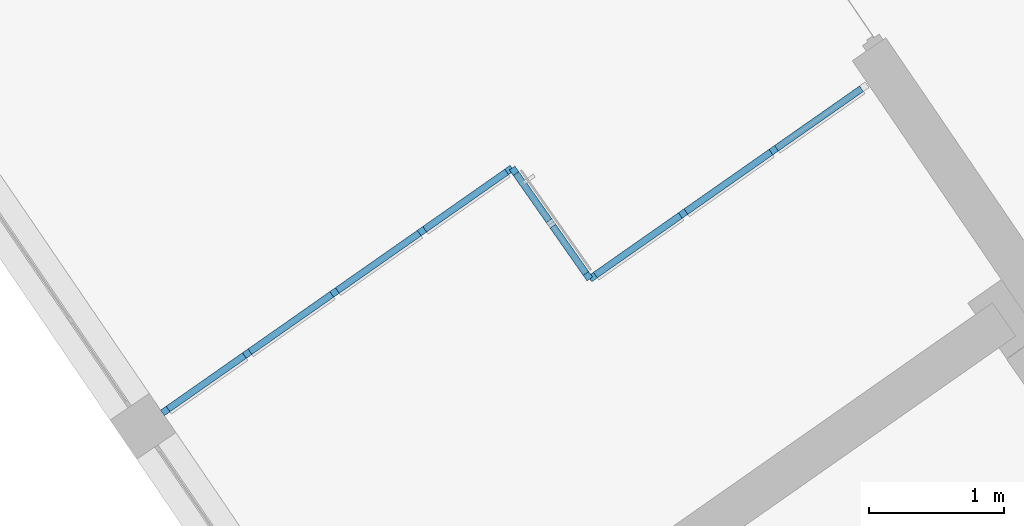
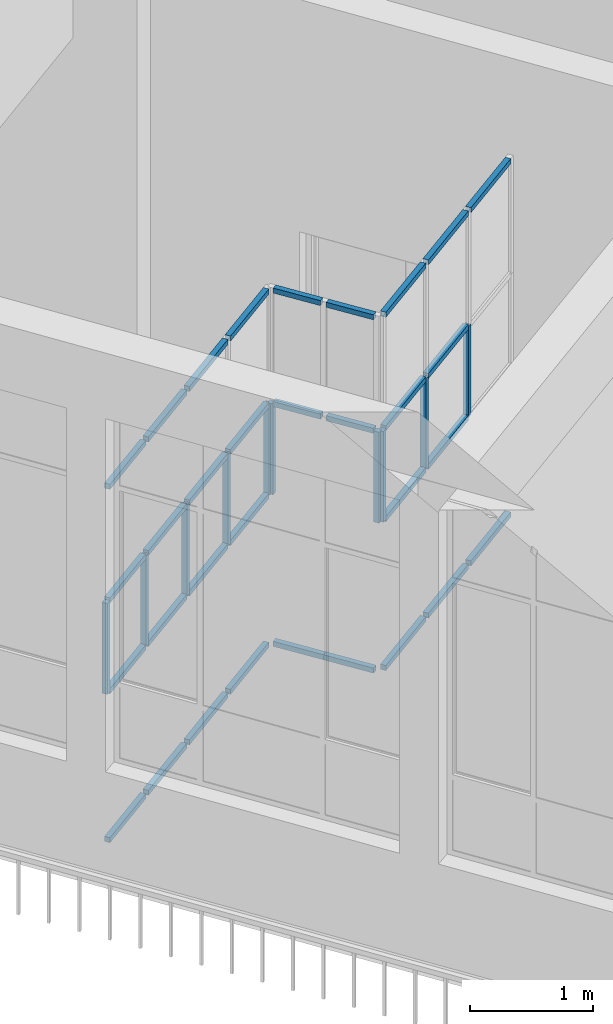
# One storey, part 39 of 157: 42 members, 3 elements without a shape of their own.
"""IFC2X3 building model written with IfcOpenShell, lengths in millimetres."""

from ifc_helpers import new_model, entity, si_unit, converted_unit, derived_unit, direction, frame, origin, origin_2d_with_axis, place, context, subcontext, project, spatial, rectangle, extrude, source, transform, mapped, material, type_object, type_shapes, element, aggregate, save


model = new_model("IFC2X3")

# Units and contexts
model_context = context("Model", 3, precision=0.01, world=origin(), true_north=direction((6.123031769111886e-17, 1.0)))
body_context = subcontext(model_context, "Body", "Model", "MODEL_VIEW")
ifc_project = project(units=[si_unit("LENGTHUNIT", "METRE", prefix="MILLI"), si_unit("AREAUNIT", "SQUARE_METRE"), si_unit("VOLUMEUNIT", "CUBIC_METRE"), converted_unit("PLANEANGLEUNIT", "DEGREE", entity("IfcRatioMeasure", 0.017453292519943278), si_unit("PLANEANGLEUNIT", "RADIAN"), dimensions=[0, 0, 0, 0, 0, 0, 0]), si_unit("MASSUNIT", "GRAM", prefix="KILO"), derived_unit("MASSDENSITYUNIT", [(si_unit("MASSUNIT", "GRAM", prefix="KILO"), 1), (si_unit("LENGTHUNIT", "METRE"), -3)]), derived_unit("MOMENTOFINERTIAUNIT", [(si_unit("LENGTHUNIT", "METRE"), 4)]), si_unit("TIMEUNIT", "SECOND"), si_unit("FREQUENCYUNIT", "HERTZ"), si_unit("THERMODYNAMICTEMPERATUREUNIT", "DEGREE_CELSIUS"), derived_unit("THERMALTRANSMITTANCEUNIT", [(si_unit("MASSUNIT", "GRAM", prefix="KILO"), 1), (si_unit("THERMODYNAMICTEMPERATUREUNIT", "KELVIN"), -1), (si_unit("TIMEUNIT", "SECOND"), -3)]), derived_unit("THERMALCONDUCTANCEUNIT", [(si_unit("MASSUNIT", "GRAM", prefix="KILO"), 1), (si_unit("LENGTHUNIT", "METRE"), 1), (si_unit("THERMODYNAMICTEMPERATUREUNIT", "KELVIN"), -1), (si_unit("TIMEUNIT", "SECOND"), -3)]), derived_unit("VOLUMETRICFLOWRATEUNIT", [(si_unit("LENGTHUNIT", "METRE"), 3), (si_unit("TIMEUNIT", "SECOND"), -1)]), derived_unit("MASSFLOWRATEUNIT", [(si_unit("MASSUNIT", "GRAM", prefix="KILO"), 1), (si_unit("TIMEUNIT", "SECOND"), -1)]), derived_unit("ROTATIONALFREQUENCYUNIT", [(si_unit("TIMEUNIT", "SECOND"), -1)]), si_unit("ELECTRICCURRENTUNIT", "AMPERE"), si_unit("ELECTRICVOLTAGEUNIT", "VOLT"), si_unit("POWERUNIT", "WATT"), converted_unit("FORCEUNIT", "KIP", entity("IfcRatioMeasure", 2.088543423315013e-05), si_unit("FORCEUNIT", "NEWTON"), dimensions=[1, 1, -2, 0, 0, 0, 0]), si_unit("ILLUMINANCEUNIT", "LUX"), si_unit("LUMINOUSFLUXUNIT", "LUMEN"), si_unit("LUMINOUSINTENSITYUNIT", "CANDELA"), derived_unit("USERDEFINED", [(si_unit("MASSUNIT", "GRAM", prefix="KILO"), -1), (si_unit("LENGTHUNIT", "METRE"), -2), (si_unit("TIMEUNIT", "SECOND"), 3), (si_unit("LUMINOUSFLUXUNIT", "LUMEN"), 1)]), derived_unit("USERDEFINED", [(si_unit("MASSUNIT", "GRAM", prefix="KILO"), 1), (si_unit("LENGTHUNIT", "METRE"), 3), (si_unit("TIMEUNIT", "SECOND"), -3), (si_unit("ELECTRICCURRENTUNIT", "AMPERE"), -2)]), derived_unit("USERDEFINED", [(si_unit("LENGTHUNIT", "METRE"), 2), (si_unit("TIMEUNIT", "SECOND"), -2)]), derived_unit("SOUNDPOWERUNIT", [(si_unit("MASSUNIT", "GRAM", prefix="KILO"), 1), (si_unit("LENGTHUNIT", "METRE"), 2), (si_unit("TIMEUNIT", "SECOND"), -3)]), derived_unit("SOUNDPRESSUREUNIT", [(si_unit("MASSUNIT", "GRAM", prefix="KILO"), 1), (si_unit("LENGTHUNIT", "METRE"), -1), (si_unit("TIMEUNIT", "SECOND"), -2)]), derived_unit("LINEARVELOCITYUNIT", [(si_unit("LENGTHUNIT", "METRE"), 1), (si_unit("TIMEUNIT", "SECOND"), -1)]), si_unit("PRESSUREUNIT", "PASCAL"), derived_unit("USERDEFINED", [(si_unit("LENGTHUNIT", "METRE"), -2), (si_unit("MASSUNIT", "GRAM", prefix="KILO"), 1), (si_unit("TIMEUNIT", "SECOND"), -2)]), derived_unit("LINEARFORCEUNIT", [(si_unit("MASSUNIT", "GRAM", prefix="KILO"), 1), (si_unit("LENGTHUNIT", "METRE"), 1), (si_unit("TIMEUNIT", "SECOND"), -2), (si_unit("LENGTHUNIT", "METRE"), -1)]), derived_unit("PLANARFORCEUNIT", [(si_unit("MASSUNIT", "GRAM", prefix="KILO"), 1), (si_unit("LENGTHUNIT", "METRE"), 1), (si_unit("TIMEUNIT", "SECOND"), -2), (si_unit("LENGTHUNIT", "METRE"), -2)]), derived_unit("SPECIFICHEATCAPACITYUNIT", [(si_unit("LENGTHUNIT", "METRE"), 2), (si_unit("TIMEUNIT", "SECOND"), -2), (si_unit("THERMODYNAMICTEMPERATUREUNIT", "KELVIN"), -1)]), derived_unit("VAPORPERMEABILITYUNIT", [(si_unit("TIMEUNIT", "SECOND"), 1), (si_unit("LENGTHUNIT", "METRE"), -1)]), derived_unit("DYNAMICVISCOSITYUNIT", [(si_unit("MASSUNIT", "GRAM", prefix="KILO"), 1), (si_unit("LENGTHUNIT", "METRE"), -1), (si_unit("TIMEUNIT", "SECOND"), -1)]), derived_unit("THERMALEXPANSIONCOEFFICIENTUNIT", [(si_unit("THERMODYNAMICTEMPERATUREUNIT", "KELVIN"), -1)])], contexts=[model_context])

# Site, building, storey
site_placement = place(None, frame((0.0, 0.0, 0.0), z_axis=(0.0, 0.0, 1.0), x_axis=(0.8191520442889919, 0.5735764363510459, 0.0)))
site = spatial("IfcSite", under=ifc_project, at=site_placement, Name="Default", CompositionType="ELEMENT")
building_placement = place(site_placement, origin())
building = spatial("IfcBuilding", under=site, at=building_placement, CompositionType="ELEMENT")
storey_placement = place(building_placement, origin())
storey = spatial("IfcBuildingStorey", under=building, at=storey_placement, Name="1.EG +0.00", CompositionType="ELEMENT", Elevation=-4.331468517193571e-12)

# Curtain wall, members
curtain_wall_type = type_object("IfcCurtainWallType", Name="Curtain Wall:Curtain_Wall_CJC_Int5", PredefinedType="NOTDEFINED")
curtain_wall_1_placement = place(storey_placement, origin())
curtain_wall_1 = element("IfcCurtainWall", 1, at=curtain_wall_1_placement, inside=storey, type_object=curtain_wall_type, Name="Curtain Wall:Curtain_Wall_CJC_Int5", ObjectType="Curtain Wall:Curtain_Wall_CJC_Int5")
ifc_material = material(Name="Aluminium")
member_type_1 = type_object("IfcMemberType", Name="Rectangular Mullion:5x5", PredefinedType="MULLION", material=ifc_material)
shared_shape_1 = source(origin(), body_context, "Body", "SweptSolid", [
    extrude(rectangle(XDim=50.000000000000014, YDim=50.0, at=origin_2d_with_axis()), frame((-25.0, 0.0, -766.6666667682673), z_axis=(0.0, 0.0, 1.0), x_axis=(0.0, -1.0, 0.0)), (0.0, 0.0, 1.0), 766.6666667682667),
])
type_shapes(member_type_1, [shared_shape_1])
member_1_placement = place(curtain_wall_1_placement, frame((-218968.91835994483, 159994.0786543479, 3550.0), z_axis=(-1.0, 0.0, 0.0), x_axis=(0.0, 0.0, 1.0)))
member_1 = element("IfcMember", 2, at=member_1_placement, type_object=member_type_1, material=ifc_material, Name="Rectangular Mullion:5x5", ObjectType="Rectangular Mullion:5x5", context=body_context, shape_type="MappedRepresentation", body=[
    mapped(shared_shape_1, transform((0.0, 0.0, 0.0), scale=1.0)),
])
member_2_placement = place(curtain_wall_1_placement, frame((-217335.58502671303, 159994.0786543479, 3550.0), z_axis=(-1.0, 0.0, 0.0), x_axis=(0.0, 0.0, 1.0)))
member_2 = element("IfcMember", 3, at=member_2_placement, type_object=member_type_1, material=ifc_material, Name="Rectangular Mullion:5x5", ObjectType="Rectangular Mullion:5x5", context=body_context, shape_type="MappedRepresentation", body=[
    mapped(shared_shape_1, transform((0.0, 0.0, 0.0), scale=1.0)),
])
member_3_placement = place(curtain_wall_1_placement, frame((-218152.25169317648, 159994.0786543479, 3550.0), z_axis=(-1.0, 0.0, 0.0), x_axis=(0.0, 0.0, 1.0)))
member_3 = element("IfcMember", 4, at=member_3_placement, type_object=member_type_1, material=ifc_material, Name="Rectangular Mullion:5x5", ObjectType="Rectangular Mullion:5x5", context=body_context, shape_type="MappedRepresentation", body=[
    mapped(shared_shape_1, transform((0.0, 0.0, 0.0), scale=1.0)),
])
member_type_2 = type_object("IfcMemberType", Name="Rectangular Mullion:5x5", PredefinedType="MULLION", material=ifc_material)
shared_shape_2 = source(origin(), body_context, "Body", "SweptSolid", [
    extrude(rectangle(XDim=50.000000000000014, YDim=50.0, at=origin_2d_with_axis()), frame((-25.0, 0.0, -766.6666667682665), z_axis=(0.0, 0.0, 1.0), x_axis=(0.0, -1.0, 0.0)), (0.0, 0.0, 1.0), 766.666666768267),
])
type_shapes(member_type_2, [shared_shape_2])
member_4_placement = place(curtain_wall_1_placement, frame((-216568.91835994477, 159994.0786543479, 0.0), z_axis=(1.0, 0.0, 0.0), x_axis=(0.0, 0.0, -1.0)))
member_4 = element("IfcMember", 5, at=member_4_placement, type_object=member_type_2, material=ifc_material, Name="Rectangular Mullion:5x5", ObjectType="Rectangular Mullion:5x5", context=body_context, shape_type="MappedRepresentation", body=[
    mapped(shared_shape_2, transform((0.0, 0.0, 0.0), scale=1.0)),
])
member_5_placement = place(curtain_wall_1_placement, frame((-217385.58502671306, 159994.0786543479, 0.0), z_axis=(1.0, 0.0, 0.0), x_axis=(0.0, 0.0, -1.0)))
member_5 = element("IfcMember", 6, at=member_5_placement, type_object=member_type_2, material=ifc_material, Name="Rectangular Mullion:5x5", ObjectType="Rectangular Mullion:5x5", context=body_context, shape_type="MappedRepresentation", body=[
    mapped(shared_shape_2, transform((0.0, 0.0, 0.0), scale=1.0)),
])
member_6_placement = place(curtain_wall_1_placement, frame((-218202.2516931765, 159994.0786543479, 0.0), z_axis=(1.0, 0.0, 0.0), x_axis=(0.0, 0.0, -1.0)))
member_6 = element("IfcMember", 7, at=member_6_placement, type_object=member_type_2, material=ifc_material, Name="Rectangular Mullion:5x5", ObjectType="Rectangular Mullion:5x5", context=body_context, shape_type="MappedRepresentation", body=[
    mapped(shared_shape_2, transform((0.0, 0.0, 0.0), scale=1.0)),
])
member_type_3 = type_object("IfcMemberType", Name="Rectangular Mullion:5x5", PredefinedType="MULLION", material=ifc_material)
shared_shape_3 = source(origin(), body_context, "Body", "SweptSolid", [
    extrude(rectangle(XDim=50.000000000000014, YDim=50.0, at=origin_2d_with_axis()), frame((-25.0, 0.0, -900.0), z_axis=(0.0, 0.0, 1.0), x_axis=(0.0, -1.0, 0.0)), (0.0, 0.0, 1.0), 900.0000000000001),
])
type_shapes(member_type_3, [shared_shape_3])
member_7_placement = place(curtain_wall_1_placement, frame((-219018.91835994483, 159994.0786543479, 1500.0), z_axis=(0.0, 0.0, -1.0), x_axis=(-1.0, 0.0, 0.0)))
member_7 = element("IfcMember", 8, at=member_7_placement, type_object=member_type_3, material=ifc_material, Name="Rectangular Mullion:5x5", ObjectType="Rectangular Mullion:5x5", context=body_context, shape_type="MappedRepresentation", body=[
    mapped(shared_shape_3, transform((0.0, 0.0, 0.0), scale=1.0)),
])

# Curtain wall, member
curtain_wall_2_placement = place(storey_placement, origin())
curtain_wall_2 = element("IfcCurtainWall", 9, at=curtain_wall_2_placement, inside=storey, type_object=curtain_wall_type, Name="Curtain Wall:Curtain_Wall_CJC_Int5", ObjectType="Curtain Wall:Curtain_Wall_CJC_Int5")
member_8_placement = place(curtain_wall_2_placement, frame((-222171.90199927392, 160994.07865434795, 1500.0), z_axis=(0.0, 0.0, -1.0), x_axis=(-1.0, 0.0, 0.0)))
member_8 = element("IfcMember", 10, at=member_8_placement, type_object=member_type_3, material=ifc_material, Name="Rectangular Mullion:5x5", ObjectType="Rectangular Mullion:5x5", context=body_context, shape_type="MappedRepresentation", body=[
    mapped(shared_shape_3, transform((0.0, 0.0, 0.0), scale=1.0)),
])

# Member
member_type_4 = type_object("IfcMemberType", Name="Rectangular Mullion:5x5", PredefinedType="MULLION", material=ifc_material)
shared_shape_4 = source(origin(), body_context, "Body", "SweptSolid", [
    extrude(rectangle(XDim=50.0, YDim=50.0, at=origin_2d_with_axis()), frame((0.0, 0.0, -766.6666667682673), z_axis=(0.0, 0.0, 1.0), x_axis=(0.0, -1.0, 0.0)), (0.0, 0.0, 1.0), 766.666666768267),
])
type_shapes(member_type_4, [shared_shape_4])
member_9_placement = place(curtain_wall_1_placement, frame((-218152.25169317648, 159994.0786543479, 1500.0), z_axis=(-1.0, 0.0, 0.0), x_axis=(0.0, 0.0, 1.0)))
member_9 = element("IfcMember", 11, at=member_9_placement, type_object=member_type_4, material=ifc_material, Name="Rectangular Mullion:5x5", ObjectType="Rectangular Mullion:5x5", context=body_context, shape_type="MappedRepresentation", body=[
    mapped(shared_shape_4, transform((0.0, 0.0, 0.0), scale=1.0)),
])

member_10_placement = place(curtain_wall_1_placement, frame((-218968.91835994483, 159994.0786543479, 1500.0), z_axis=(-1.0, 0.0, 0.0), x_axis=(0.0, 0.0, 1.0)))
member_10 = element("IfcMember", 12, at=member_10_placement, type_object=member_type_4, material=ifc_material, Name="Rectangular Mullion:5x5", ObjectType="Rectangular Mullion:5x5", context=body_context, shape_type="MappedRepresentation", body=[
    mapped(shared_shape_4, transform((0.0, 0.0, 0.0), scale=1.0)),
])

member_11_placement = place(curtain_wall_1_placement, frame((-218152.25169317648, 159994.0786543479, 2400.0), z_axis=(-1.0, 0.0, 0.0), x_axis=(0.0, 0.0, 1.0)))
member_11 = element("IfcMember", 13, at=member_11_placement, type_object=member_type_4, material=ifc_material, Name="Rectangular Mullion:5x5", ObjectType="Rectangular Mullion:5x5", context=body_context, shape_type="MappedRepresentation", body=[
    mapped(shared_shape_4, transform((0.0, 0.0, 0.0), scale=1.0)),
])

member_12_placement = place(curtain_wall_1_placement, frame((-218968.91835994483, 159994.0786543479, 2400.0), z_axis=(-1.0, 0.0, 0.0), x_axis=(0.0, 0.0, 1.0)))
member_12 = element("IfcMember", 14, at=member_12_placement, type_object=member_type_4, material=ifc_material, Name="Rectangular Mullion:5x5", ObjectType="Rectangular Mullion:5x5", context=body_context, shape_type="MappedRepresentation", body=[
    mapped(shared_shape_4, transform((0.0, 0.0, 0.0), scale=1.0)),
])

member_type_5 = type_object("IfcMemberType", Name="Rectangular Mullion:5x5", PredefinedType="MULLION", material=ifc_material)
shared_shape_5 = source(origin(), body_context, "Body", "SweptSolid", [
    extrude(rectangle(XDim=50.0, YDim=50.0, at=origin_2d_with_axis()), frame((0.0, 0.0, -900.0), z_axis=(0.0, 0.0, 1.0), x_axis=(0.0, -1.0, 0.0)), (0.0, 0.0, 1.0), 900.0000000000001),
])
type_shapes(member_type_5, [shared_shape_5])
member_13_placement = place(curtain_wall_1_placement, frame((-217360.58502671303, 159994.0786543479, 1500.0), z_axis=(0.0, 0.0, -1.0), x_axis=(-1.0, 0.0, 0.0)))
member_13 = element("IfcMember", 15, at=member_13_placement, type_object=member_type_5, material=ifc_material, Name="Rectangular Mullion:5x5", ObjectType="Rectangular Mullion:5x5", context=body_context, shape_type="MappedRepresentation", body=[
    mapped(shared_shape_5, transform((0.0, 0.0, 0.0), scale=1.0)),
])

member_14_placement = place(curtain_wall_1_placement, frame((-218177.25169317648, 159994.0786543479, 1500.0), z_axis=(0.0, 0.0, -1.0), x_axis=(-1.0, 0.0, 0.0)))
member_14 = element("IfcMember", 16, at=member_14_placement, type_object=member_type_5, material=ifc_material, Name="Rectangular Mullion:5x5", ObjectType="Rectangular Mullion:5x5", context=body_context, shape_type="MappedRepresentation", body=[
    mapped(shared_shape_5, transform((0.0, 0.0, 0.0), scale=1.0)),
])

aggregate(curtain_wall_1, [member_1, member_2, member_3, member_4, member_5, member_6, member_7, member_9, member_10, member_13, member_14, member_11, member_12])

member_15_placement = place(curtain_wall_2_placement, frame((-219832.1642699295, 160994.07865434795, 1500.0), z_axis=(0.0, 0.0, -1.0), x_axis=(-1.0, 0.0, 0.0)))
member_15 = element("IfcMember", 17, at=member_15_placement, type_object=member_type_5, material=ifc_material, Name="Rectangular Mullion:5x5", ObjectType="Rectangular Mullion:5x5", context=body_context, shape_type="MappedRepresentation", body=[
    mapped(shared_shape_5, transform((0.0, 0.0, 0.0), scale=1.0)),
])

member_16_placement = place(curtain_wall_2_placement, frame((-220620.41017960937, 160994.07865434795, 1500.0), z_axis=(0.0, 0.0, -1.0), x_axis=(-1.0, 0.0, 0.0)))
member_16 = element("IfcMember", 18, at=member_16_placement, type_object=member_type_5, material=ifc_material, Name="Rectangular Mullion:5x5", ObjectType="Rectangular Mullion:5x5", context=body_context, shape_type="MappedRepresentation", body=[
    mapped(shared_shape_5, transform((0.0, 0.0, 0.0), scale=1.0)),
])

member_17_placement = place(curtain_wall_2_placement, frame((-221408.65608928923, 160994.07865434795, 1500.0), z_axis=(0.0, 0.0, -1.0), x_axis=(-1.0, 0.0, 0.0)))
member_17 = element("IfcMember", 19, at=member_17_placement, type_object=member_type_5, material=ifc_material, Name="Rectangular Mullion:5x5", ObjectType="Rectangular Mullion:5x5", context=body_context, shape_type="MappedRepresentation", body=[
    mapped(shared_shape_5, transform((0.0, 0.0, 0.0), scale=1.0)),
])

member_type_6 = type_object("IfcMemberType", Name="Rectangular Mullion:5x5", PredefinedType="MULLION", material=ifc_material)
shared_shape_6 = source(origin(), body_context, "Body", "SweptSolid", [
    extrude(rectangle(XDim=50.000000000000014, YDim=50.0, at=origin_2d_with_axis()), frame((-25.0, 0.0, -900.0), z_axis=(0.0, 0.0, 1.0), x_axis=(0.0, -1.0, 0.0)), (0.0, 0.0, 1.0), 899.9999999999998),
])
type_shapes(member_type_6, [shared_shape_6])
member_18_placement = place(curtain_wall_2_placement, frame((-219018.91835994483, 160994.07865434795, 2400.0)))
member_18 = element("IfcMember", 20, at=member_18_placement, type_object=member_type_6, material=ifc_material, Name="Rectangular Mullion:5x5", ObjectType="Rectangular Mullion:5x5", context=body_context, shape_type="MappedRepresentation", body=[
    mapped(shared_shape_6, transform((0.0, 0.0, 0.0), scale=1.0)),
])

# Curtain wall, members
curtain_wall_3_placement = place(storey_placement, origin())
curtain_wall_3 = element("IfcCurtainWall", 21, at=curtain_wall_3_placement, inside=storey, type_object=curtain_wall_type, Name="Curtain Wall:Curtain_Wall_CJC_Int5", ObjectType="Curtain Wall:Curtain_Wall_CJC_Int5")
member_type_7 = type_object("IfcMemberType", Name="Rectangular Mullion:5x5", PredefinedType="MULLION", material=ifc_material)
shared_shape_7 = source(origin(), body_context, "Body", "SweptSolid", [
    extrude(rectangle(XDim=50.000000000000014, YDim=50.0, at=origin_2d_with_axis()), frame((-25.0, 0.0, -425.0), z_axis=(0.0, 0.0, 1.0), x_axis=(0.0, -1.0, 0.0)), (0.0, 0.0, 1.0), 425.0000000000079),
])
type_shapes(member_type_7, [shared_shape_7])
member_19_placement = place(curtain_wall_3_placement, frame((-219018.91835994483, 160944.07865434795, 3550.0), z_axis=(0.0, 1.0, 0.0), x_axis=(0.0, 0.0, 1.0)))
member_19 = element("IfcMember", 22, at=member_19_placement, type_object=member_type_7, material=ifc_material, Name="Rectangular Mullion:5x5", ObjectType="Rectangular Mullion:5x5", context=body_context, shape_type="MappedRepresentation", body=[
    mapped(shared_shape_7, transform((0.0, 0.0, 0.0), scale=1.0)),
])
member_20_placement = place(curtain_wall_3_placement, frame((-219018.91835994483, 160469.0786543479, 3550.0), z_axis=(0.0, 1.0, 0.0), x_axis=(0.0, 0.0, 1.0)))
member_20 = element("IfcMember", 23, at=member_20_placement, type_object=member_type_7, material=ifc_material, Name="Rectangular Mullion:5x5", ObjectType="Rectangular Mullion:5x5", context=body_context, shape_type="MappedRepresentation", body=[
    mapped(shared_shape_7, transform((0.0, 0.0, 0.0), scale=1.0)),
])
member_type_8 = type_object("IfcMemberType", Name="Rectangular Mullion:5x5", PredefinedType="MULLION", material=ifc_material)
shared_shape_8 = source(origin(), body_context, "Body", "SweptSolid", [
    extrude(rectangle(XDim=50.000000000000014, YDim=50.0, at=origin_2d_with_axis()), frame((-25.0, 0.0, -450.0), z_axis=(0.0, 0.0, 1.0), x_axis=(0.0, -1.0, 0.0)), (0.0, 0.0, 1.0), 449.9999999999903),
])
type_shapes(member_type_8, [shared_shape_8])
member_21_placement = place(curtain_wall_3_placement, frame((-219018.91835994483, 160044.0786543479, 0.0), z_axis=(0.0, -1.0, 0.0), x_axis=(0.0, 0.0, -1.0)))
member_21 = element("IfcMember", 24, at=member_21_placement, type_object=member_type_8, material=ifc_material, Name="Rectangular Mullion:5x5", ObjectType="Rectangular Mullion:5x5", context=body_context, shape_type="MappedRepresentation", body=[
    mapped(shared_shape_8, transform((0.0, 0.0, 0.0), scale=1.0)),
])
member_type_9 = type_object("IfcMemberType", Name="Rectangular Mullion:5x5", PredefinedType="MULLION", material=ifc_material)
shared_shape_9 = source(origin(), body_context, "Body", "SweptSolid", [
    extrude(rectangle(XDim=50.000000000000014, YDim=50.0, at=origin_2d_with_axis()), frame((-25.0, 0.0, -450.0), z_axis=(0.0, 0.0, 1.0), x_axis=(0.0, -1.0, 0.0)), (0.0, 0.0, 1.0), 450.0000000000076),
])
type_shapes(member_type_9, [shared_shape_9])
member_22_placement = place(curtain_wall_3_placement, frame((-219018.91835994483, 160494.0786543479, 0.0), z_axis=(0.0, -1.0, 0.0), x_axis=(0.0, 0.0, -1.0)))
member_22 = element("IfcMember", 25, at=member_22_placement, type_object=member_type_9, material=ifc_material, Name="Rectangular Mullion:5x5", ObjectType="Rectangular Mullion:5x5", context=body_context, shape_type="MappedRepresentation", body=[
    mapped(shared_shape_9, transform((0.0, 0.0, 0.0), scale=1.0)),
])
member_type_10 = type_object("IfcMemberType", Name="Rectangular Mullion:5x5", PredefinedType="MULLION", material=ifc_material)
shared_shape_10 = source(origin(), body_context, "Body", "SweptSolid", [
    extrude(rectangle(XDim=50.000000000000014, YDim=50.0, at=origin_2d_with_axis()), frame((-25.0, 0.0, -900.0), z_axis=(0.0, 0.0, 1.0), x_axis=(0.0, -1.0, 0.0)), (0.0, 0.0, 1.0), 900.0000000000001),
])
type_shapes(member_type_10, [shared_shape_10])
member_23_placement = place(curtain_wall_3_placement, frame((-219018.91835994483, 160994.07865434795, 1500.0), z_axis=(0.0, 0.0, -1.0), x_axis=(0.0, 1.0, 0.0)))
member_23 = element("IfcMember", 26, at=member_23_placement, type_object=member_type_10, material=ifc_material, Name="Rectangular Mullion:5x5", ObjectType="Rectangular Mullion:5x5", context=body_context, shape_type="MappedRepresentation", body=[
    mapped(shared_shape_10, transform((0.0, 0.0, 0.0), scale=1.0)),
])
member_type_11 = type_object("IfcMemberType", Name="Rectangular Mullion:5x5", PredefinedType="MULLION", material=ifc_material)
shared_shape_11 = source(origin(), body_context, "Body", "SweptSolid", [
    extrude(rectangle(XDim=50.0, YDim=50.0, at=origin_2d_with_axis()), frame((-25.0, 0.0, -900.0), z_axis=(0.0, 0.0, 1.0), x_axis=(0.0, -1.0, 0.0)), (0.0, 0.0, 1.0), 899.9999999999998),
])
type_shapes(member_type_11, [shared_shape_11])
member_24_placement = place(curtain_wall_3_placement, frame((-219018.91835994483, 159994.0786543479, 2400.0), z_axis=(0.0, 0.0, 1.0), x_axis=(0.0, -1.0, 0.0)))
member_24 = element("IfcMember", 27, at=member_24_placement, type_object=member_type_11, material=ifc_material, Name="Rectangular Mullion:5x5", ObjectType="Rectangular Mullion:5x5", context=body_context, shape_type="MappedRepresentation", body=[
    mapped(shared_shape_11, transform((0.0, 0.0, 0.0), scale=1.0)),
])
member_type_12 = type_object("IfcMemberType", Name="Rectangular Mullion:5x5", PredefinedType="MULLION", material=ifc_material)
shared_shape_12 = source(origin(), body_context, "Body", "SweptSolid", [
    extrude(rectangle(XDim=50.0, YDim=50.0, at=origin_2d_with_axis()), frame((0.0, 0.0, -425.0), z_axis=(0.0, 0.0, 1.0), x_axis=(0.0, -1.0, 0.0)), (0.0, 0.0, 1.0), 424.9999999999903),
])
type_shapes(member_type_12, [shared_shape_12])
member_25_placement = place(curtain_wall_3_placement, frame((-219018.91835994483, 160469.0786543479, 2400.0), z_axis=(0.0, 1.0, 0.0), x_axis=(0.0, 0.0, 1.0)))
member_25 = element("IfcMember", 28, at=member_25_placement, type_object=member_type_12, material=ifc_material, Name="Rectangular Mullion:5x5", ObjectType="Rectangular Mullion:5x5", context=body_context, shape_type="MappedRepresentation", body=[
    mapped(shared_shape_12, transform((0.0, 0.0, 0.0), scale=1.0)),
])
member_26_placement = place(curtain_wall_3_placement, frame((-219018.91835994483, 160944.07865434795, 2400.0), z_axis=(0.0, 1.0, 0.0), x_axis=(0.0, 0.0, 1.0)))
member_26 = element("IfcMember", 29, at=member_26_placement, type_object=member_type_12, material=ifc_material, Name="Rectangular Mullion:5x5", ObjectType="Rectangular Mullion:5x5", context=body_context, shape_type="MappedRepresentation", body=[
    mapped(shared_shape_12, transform((0.0, 0.0, 0.0), scale=1.0)),
])
aggregate(curtain_wall_3, [member_19, member_20, member_21, member_22, member_23, member_24, member_25, member_26])

# Member
member_type_13 = type_object("IfcMemberType", Name="Rectangular Mullion:5x5", PredefinedType="MULLION", material=ifc_material)
shared_shape_13 = source(origin(), body_context, "Body", "SweptSolid", [
    extrude(rectangle(XDim=50.000000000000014, YDim=50.0, at=origin_2d_with_axis()), frame((-25.0, 0.0, -688.2459099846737), z_axis=(0.0, 0.0, 1.0), x_axis=(0.0, -1.0, 0.0)), (0.0, 0.0, 1.0), 688.245909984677),
])
type_shapes(member_type_13, [shared_shape_13])
member_27_placement = place(curtain_wall_2_placement, frame((-222121.90199927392, 160994.07865434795, 3550.0), z_axis=(-1.0, 0.0, 0.0), x_axis=(0.0, 0.0, 1.0)))
member_27 = element("IfcMember", 30, at=member_27_placement, type_object=member_type_13, material=ifc_material, Name="Rectangular Mullion:5x5", ObjectType="Rectangular Mullion:5x5", context=body_context, shape_type="MappedRepresentation", body=[
    mapped(shared_shape_13, transform((0.0, 0.0, 0.0), scale=1.0)),
])

member_type_14 = type_object("IfcMemberType", Name="Rectangular Mullion:5x5", PredefinedType="MULLION", material=ifc_material)
shared_shape_14 = source(origin(), body_context, "Body", "SweptSolid", [
    extrude(rectangle(XDim=50.000000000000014, YDim=50.0, at=origin_2d_with_axis()), frame((-25.0, 0.0, -738.2459099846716), z_axis=(0.0, 0.0, 1.0), x_axis=(0.0, -1.0, 0.0)), (0.0, 0.0, 1.0), 738.2459099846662),
])
type_shapes(member_type_14, [shared_shape_14])
member_28_placement = place(curtain_wall_2_placement, frame((-219807.1642699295, 160994.07865434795, 3550.0), z_axis=(-1.0, 0.0, 0.0), x_axis=(0.0, 0.0, 1.0)))
member_28 = element("IfcMember", 31, at=member_28_placement, type_object=member_type_14, material=ifc_material, Name="Rectangular Mullion:5x5", ObjectType="Rectangular Mullion:5x5", context=body_context, shape_type="MappedRepresentation", body=[
    mapped(shared_shape_14, transform((0.0, 0.0, 0.0), scale=1.0)),
])

member_29_placement = place(curtain_wall_2_placement, frame((-220595.41017960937, 160994.07865434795, 3550.0), z_axis=(-1.0, 0.0, 0.0), x_axis=(0.0, 0.0, 1.0)))
member_29 = element("IfcMember", 32, at=member_29_placement, type_object=member_type_14, material=ifc_material, Name="Rectangular Mullion:5x5", ObjectType="Rectangular Mullion:5x5", context=body_context, shape_type="MappedRepresentation", body=[
    mapped(shared_shape_14, transform((0.0, 0.0, 0.0), scale=1.0)),
])

member_30_placement = place(curtain_wall_2_placement, frame((-221383.65608928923, 160994.07865434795, 3550.0), z_axis=(-1.0, 0.0, 0.0), x_axis=(0.0, 0.0, 1.0)))
member_30 = element("IfcMember", 33, at=member_30_placement, type_object=member_type_14, material=ifc_material, Name="Rectangular Mullion:5x5", ObjectType="Rectangular Mullion:5x5", context=body_context, shape_type="MappedRepresentation", body=[
    mapped(shared_shape_14, transform((0.0, 0.0, 0.0), scale=1.0)),
])

member_type_15 = type_object("IfcMemberType", Name="Rectangular Mullion:5x5", PredefinedType="MULLION", material=ifc_material)
shared_shape_15 = source(origin(), body_context, "Body", "SweptSolid", [
    extrude(rectangle(XDim=50.000000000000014, YDim=50.0, at=origin_2d_with_axis()), frame((-25.0, 0.0, -738.24590998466), z_axis=(0.0, 0.0, 1.0), x_axis=(0.0, -1.0, 0.0)), (0.0, 0.0, 1.0), 738.2459099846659),
])
type_shapes(member_type_15, [shared_shape_15])
member_31_placement = place(curtain_wall_2_placement, frame((-219068.9183599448, 160994.07865434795, 0.0), z_axis=(1.0, 0.0, 0.0), x_axis=(0.0, 0.0, -1.0)))
member_31 = element("IfcMember", 34, at=member_31_placement, type_object=member_type_15, material=ifc_material, Name="Rectangular Mullion:5x5", ObjectType="Rectangular Mullion:5x5", context=body_context, shape_type="MappedRepresentation", body=[
    mapped(shared_shape_15, transform((0.0, 0.0, 0.0), scale=1.0)),
])

member_32_placement = place(curtain_wall_2_placement, frame((-219857.1642699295, 160994.07865434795, 0.0), z_axis=(1.0, 0.0, 0.0), x_axis=(0.0, 0.0, -1.0)))
member_32 = element("IfcMember", 35, at=member_32_placement, type_object=member_type_15, material=ifc_material, Name="Rectangular Mullion:5x5", ObjectType="Rectangular Mullion:5x5", context=body_context, shape_type="MappedRepresentation", body=[
    mapped(shared_shape_15, transform((0.0, 0.0, 0.0), scale=1.0)),
])

member_33_placement = place(curtain_wall_2_placement, frame((-220645.4101796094, 160994.07865434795, 0.0), z_axis=(1.0, 0.0, 0.0), x_axis=(0.0, 0.0, -1.0)))
member_33 = element("IfcMember", 36, at=member_33_placement, type_object=member_type_15, material=ifc_material, Name="Rectangular Mullion:5x5", ObjectType="Rectangular Mullion:5x5", context=body_context, shape_type="MappedRepresentation", body=[
    mapped(shared_shape_15, transform((0.0, 0.0, 0.0), scale=1.0)),
])

member_type_16 = type_object("IfcMemberType", Name="Rectangular Mullion:5x5", PredefinedType="MULLION", material=ifc_material)
shared_shape_16 = source(origin(), body_context, "Body", "SweptSolid", [
    extrude(rectangle(XDim=50.000000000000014, YDim=50.0, at=origin_2d_with_axis()), frame((-25.0, 0.0, -688.245909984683), z_axis=(0.0, 0.0, 1.0), x_axis=(0.0, -1.0, 0.0)), (0.0, 0.0, 1.0), 688.2459099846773),
])
type_shapes(member_type_16, [shared_shape_16])
member_34_placement = place(curtain_wall_2_placement, frame((-221433.65608928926, 160994.07865434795, 0.0), z_axis=(1.0, 0.0, 0.0), x_axis=(0.0, 0.0, -1.0)))
member_34 = element("IfcMember", 37, at=member_34_placement, type_object=member_type_16, material=ifc_material, Name="Rectangular Mullion:5x5", ObjectType="Rectangular Mullion:5x5", context=body_context, shape_type="MappedRepresentation", body=[
    mapped(shared_shape_16, transform((0.0, 0.0, 0.0), scale=1.0)),
])

member_type_17 = type_object("IfcMemberType", Name="Rectangular Mullion:5x5", PredefinedType="MULLION", material=ifc_material)
shared_shape_17 = source(origin(), body_context, "Body", "SweptSolid", [
    extrude(rectangle(XDim=50.0, YDim=50.0, at=origin_2d_with_axis()), frame((0.0, 0.0, -738.2459099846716), z_axis=(0.0, 0.0, 1.0), x_axis=(0.0, -1.0, 0.0)), (0.0, 0.0, 1.0), 738.2459099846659),
])
type_shapes(member_type_17, [shared_shape_17])
member_35_placement = place(curtain_wall_2_placement, frame((-219807.1642699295, 160994.07865434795, 1500.0), z_axis=(-1.0, 0.0, 0.0), x_axis=(0.0, 0.0, 1.0)))
member_35 = element("IfcMember", 38, at=member_35_placement, type_object=member_type_17, material=ifc_material, Name="Rectangular Mullion:5x5", ObjectType="Rectangular Mullion:5x5", context=body_context, shape_type="MappedRepresentation", body=[
    mapped(shared_shape_17, transform((0.0, 0.0, 0.0), scale=1.0)),
])

member_36_placement = place(curtain_wall_2_placement, frame((-220595.41017960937, 160994.07865434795, 1500.0), z_axis=(-1.0, 0.0, 0.0), x_axis=(0.0, 0.0, 1.0)))
member_36 = element("IfcMember", 39, at=member_36_placement, type_object=member_type_17, material=ifc_material, Name="Rectangular Mullion:5x5", ObjectType="Rectangular Mullion:5x5", context=body_context, shape_type="MappedRepresentation", body=[
    mapped(shared_shape_17, transform((0.0, 0.0, 0.0), scale=1.0)),
])

member_37_placement = place(curtain_wall_2_placement, frame((-221383.65608928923, 160994.07865434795, 1500.0), z_axis=(-1.0, 0.0, 0.0), x_axis=(0.0, 0.0, 1.0)))
member_37 = element("IfcMember", 40, at=member_37_placement, type_object=member_type_17, material=ifc_material, Name="Rectangular Mullion:5x5", ObjectType="Rectangular Mullion:5x5", context=body_context, shape_type="MappedRepresentation", body=[
    mapped(shared_shape_17, transform((0.0, 0.0, 0.0), scale=1.0)),
])

member_38_placement = place(curtain_wall_2_placement, frame((-219807.1642699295, 160994.07865434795, 2400.0), z_axis=(-1.0, 0.0, 0.0), x_axis=(0.0, 0.0, 1.0)))
member_38 = element("IfcMember", 41, at=member_38_placement, type_object=member_type_17, material=ifc_material, Name="Rectangular Mullion:5x5", ObjectType="Rectangular Mullion:5x5", context=body_context, shape_type="MappedRepresentation", body=[
    mapped(shared_shape_17, transform((0.0, 0.0, 0.0), scale=1.0)),
])

member_39_placement = place(curtain_wall_2_placement, frame((-220595.41017960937, 160994.07865434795, 2400.0), z_axis=(-1.0, 0.0, 0.0), x_axis=(0.0, 0.0, 1.0)))
member_39 = element("IfcMember", 42, at=member_39_placement, type_object=member_type_17, material=ifc_material, Name="Rectangular Mullion:5x5", ObjectType="Rectangular Mullion:5x5", context=body_context, shape_type="MappedRepresentation", body=[
    mapped(shared_shape_17, transform((0.0, 0.0, 0.0), scale=1.0)),
])

member_40_placement = place(curtain_wall_2_placement, frame((-221383.65608928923, 160994.07865434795, 2400.0), z_axis=(-1.0, 0.0, 0.0), x_axis=(0.0, 0.0, 1.0)))
member_40 = element("IfcMember", 43, at=member_40_placement, type_object=member_type_17, material=ifc_material, Name="Rectangular Mullion:5x5", ObjectType="Rectangular Mullion:5x5", context=body_context, shape_type="MappedRepresentation", body=[
    mapped(shared_shape_17, transform((0.0, 0.0, 0.0), scale=1.0)),
])

member_type_18 = type_object("IfcMemberType", Name="Rectangular Mullion:5x5", PredefinedType="MULLION", material=ifc_material)
shared_shape_18 = source(origin(), body_context, "Body", "SweptSolid", [
    extrude(rectangle(XDim=50.0, YDim=50.0, at=origin_2d_with_axis()), frame((0.0, 0.0, -688.2459099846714), z_axis=(0.0, 0.0, 1.0), x_axis=(0.0, -1.0, 0.0)), (0.0, 0.0, 1.0), 688.2459099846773),
])
type_shapes(member_type_18, [shared_shape_18])
member_41_placement = place(curtain_wall_2_placement, frame((-222121.90199927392, 160994.07865434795, 1500.0), z_axis=(-1.0, 0.0, 0.0), x_axis=(0.0, 0.0, 1.0)))
member_41 = element("IfcMember", 44, at=member_41_placement, type_object=member_type_18, material=ifc_material, Name="Rectangular Mullion:5x5", ObjectType="Rectangular Mullion:5x5", context=body_context, shape_type="MappedRepresentation", body=[
    mapped(shared_shape_18, transform((0.0, 0.0, 0.0), scale=1.0)),
])

member_42_placement = place(curtain_wall_2_placement, frame((-222121.90199927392, 160994.07865434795, 2400.0), z_axis=(-1.0, 0.0, 0.0), x_axis=(0.0, 0.0, 1.0)))
member_42 = element("IfcMember", 45, at=member_42_placement, type_object=member_type_18, material=ifc_material, Name="Rectangular Mullion:5x5", ObjectType="Rectangular Mullion:5x5", context=body_context, shape_type="MappedRepresentation", body=[
    mapped(shared_shape_18, transform((0.0, 0.0, 0.0), scale=1.0)),
])

aggregate(curtain_wall_2, [member_27, member_28, member_29, member_30, member_31, member_32, member_33, member_34, member_8, member_35, member_36, member_37, member_41, member_15, member_16, member_17, member_18, member_38, member_39, member_40, member_42])

save(model, "model.ifc")
